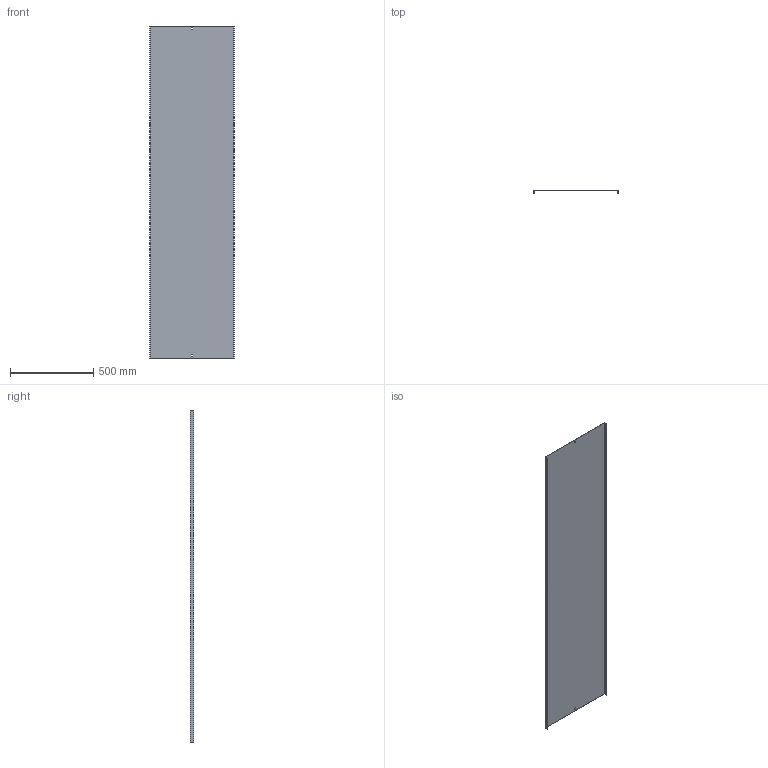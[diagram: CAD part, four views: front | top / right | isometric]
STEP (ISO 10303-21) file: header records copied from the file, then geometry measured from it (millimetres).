
FILE_DESCRIPTION (( 'STEP AP214' ), '1' );
FILE_NAME ('05G2R500.step', '2025-02-21T13:07:30', ( '' ), ( '' ), 'SwSTEP 2.0', 'SolidWorks 2023', '' );
FILE_SCHEMA (( 'AUTOMOTIVE_DESIGN' ));
Length unit declared in the file: millimetre
Products named in the file (1): 05G2R500
Bounding box: 507 x 20 x 2000 mm (x, y, z)
Volume: 1631824.5 mm3; surface area: 2183491 mm2
Topology: 1 solids, 1 shells, 18 faces, 48 edges, 32 vertices
Faces by surface type: plane 18
Entity records: 583 total; most frequent: CARTESIAN_POINT 99, ORIENTED_EDGE 96, DIRECTION 86, VECTOR 48, EDGE_CURVE 48, LINE 48, VERTEX_POINT 32, EDGE_LOOP 22
